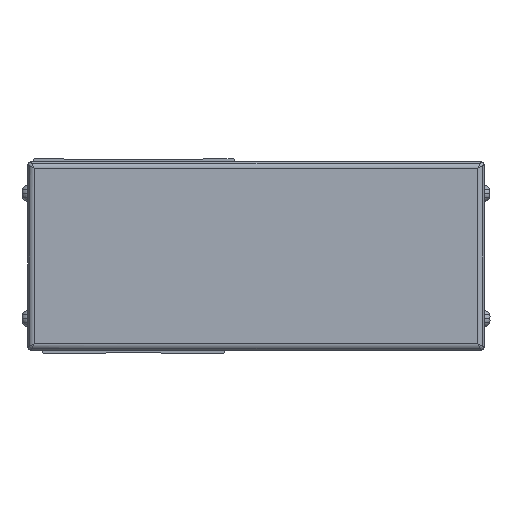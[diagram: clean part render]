
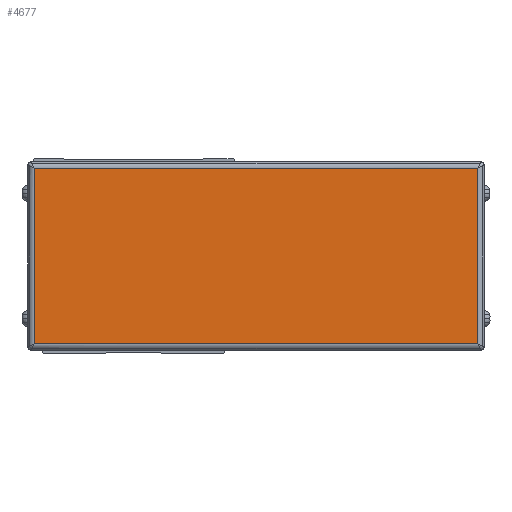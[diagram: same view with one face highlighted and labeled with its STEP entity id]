
A CAD part, front view. The second image highlights one B-rep face of the part: STEP entity #4677.
In plain terms, the highlighted planar face has unit normal (0, -1, 0).
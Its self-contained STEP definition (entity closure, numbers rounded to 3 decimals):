
#4677=ADVANCED_FACE('',(#9758),#9759,.T.);
#9758=FACE_OUTER_BOUND('',#15973,.T.);
#9759=PLANE('',#15974);
#15973=EDGE_LOOP('',(#29684,#29685,#29686,#29687));
#15974=AXIS2_PLACEMENT_3D('',#29688,#29689,#29690);
#29684=ORIENTED_EDGE('',*,*,#39655,.F.);
#29685=ORIENTED_EDGE('',*,*,#39656,.F.);
#29686=ORIENTED_EDGE('',*,*,#39657,.F.);
#29687=ORIENTED_EDGE('',*,*,#39658,.F.);
#29688=CARTESIAN_POINT('',(339.,81.,-4.));
#29689=DIRECTION('',(0.,-1.0,0.));
#29690=DIRECTION('',(0.,0.,1.0));
#39655=EDGE_CURVE('',#48801,#48802,#48803,.T.);
#39656=EDGE_CURVE('',#48804,#48801,#48805,.T.);
#39657=EDGE_CURVE('',#48806,#48804,#48807,.T.);
#39658=EDGE_CURVE('',#48802,#48806,#48808,.T.);
#48801=VERTEX_POINT('',#61777);
#48802=VERTEX_POINT('',#61778);
#48803=LINE('',#61779,#61780);
#48804=VERTEX_POINT('',#61781);
#48805=LINE('',#61782,#61783);
#48806=VERTEX_POINT('',#61784);
#48807=LINE('',#61785,#61786);
#48808=LINE('',#61787,#61788);
#61777=CARTESIAN_POINT('',(268.3,81.,24.));
#61778=CARTESIAN_POINT('',(409.7,81.,24.));
#61779=CARTESIAN_POINT('',(339.,81.,24.));
#61780=VECTOR('',#69499,10.0);
#61781=CARTESIAN_POINT('',(268.3,81.,-32.));
#61782=CARTESIAN_POINT('',(268.3,81.,-4.));
#61783=VECTOR('',#69500,10.0);
#61784=CARTESIAN_POINT('',(409.7,81.,-32.));
#61785=CARTESIAN_POINT('',(339.,81.,-32.));
#61786=VECTOR('',#69501,10.0);
#61787=CARTESIAN_POINT('',(409.7,81.,-4.));
#61788=VECTOR('',#69502,10.0);
#69499=DIRECTION('',(1.0,0.,0.));
#69500=DIRECTION('',(0.,0.,1.0));
#69501=DIRECTION('',(-1.0,0.,0.));
#69502=DIRECTION('',(0.,0.,-1.0));
